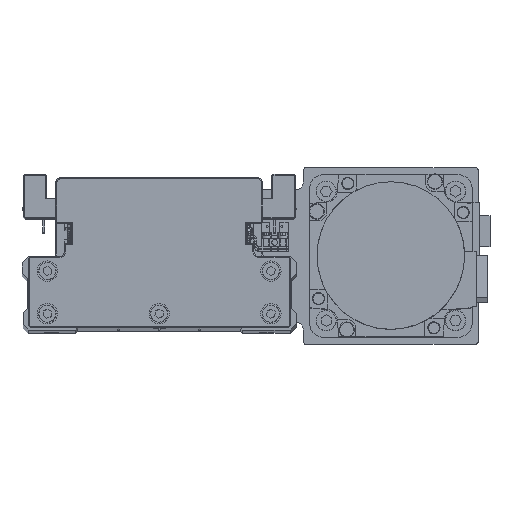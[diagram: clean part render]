
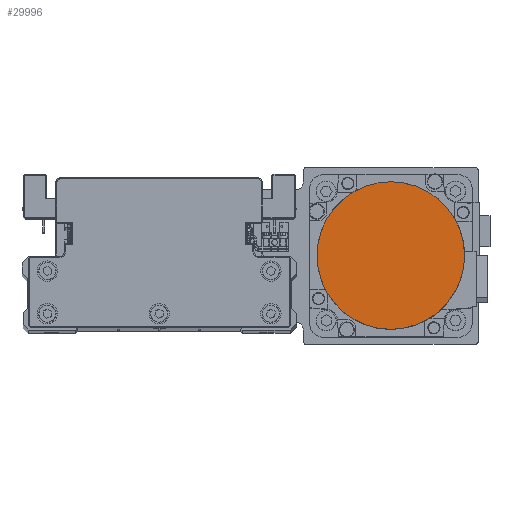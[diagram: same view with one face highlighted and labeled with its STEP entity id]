
A CAD part, top view. The second image highlights one B-rep face of the part: STEP entity #29996.
In plain terms, the highlighted planar face has unit normal (0, 0, 1) as drawn and (0, 0, -1) by its records, which use the part's own axes.
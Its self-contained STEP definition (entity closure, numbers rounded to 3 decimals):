
#2161 = CIRCLE ( 'NONE', #24792, 36.3 ) ;
#6192 = EDGE_CURVE ( 'NONE', #24399, #9738, #9843, .T. ) ;
#7232 = EDGE_CURVE ( 'NONE', #9738, #24399, #2161, .T. ) ;
#7292 = DIRECTION ( 'NONE',  ( 0., 1., 0. ) ) ;
#7983 = DIRECTION ( 'NONE',  ( 0., -1., 0. ) ) ;
#9738 = VERTEX_POINT ( 'NONE', #19290 ) ;
#9843 = CIRCLE ( 'NONE', #32474, 36.3 ) ;
#10886 = DIRECTION ( 'NONE',  ( 0., 0., 1. ) ) ;
#11982 = AXIS2_PLACEMENT_3D ( 'NONE', #38621, #10886, #23243 ) ;
#13934 = FACE_OUTER_BOUND ( 'NONE', #39744, .T. ) ;
#18184 = ORIENTED_EDGE ( 'NONE', *, *, #7232, .F. ) ;
#19290 = CARTESIAN_POINT ( 'NONE',  ( 0., 36.3, -122.2 ) ) ;
#22691 = CARTESIAN_POINT ( 'NONE',  ( 0., 0., -122.2 ) ) ;
#23243 = DIRECTION ( 'NONE',  ( 1., 0., 0. ) ) ;
#23382 = CARTESIAN_POINT ( 'NONE',  ( 0., 0., -122.2 ) ) ;
#24399 = VERTEX_POINT ( 'NONE', #30617 ) ;
#24792 = AXIS2_PLACEMENT_3D ( 'NONE', #22691, #35033, #7292 ) ;
#26291 = PLANE ( 'NONE',  #11982 ) ;
#29996 = ADVANCED_FACE ( 'NONE', ( #13934 ), #26291, .F. ) ;
#30617 = CARTESIAN_POINT ( 'NONE',  ( 0., -36.3, -122.2 ) ) ;
#30903 = ORIENTED_EDGE ( 'NONE', *, *, #6192, .F. ) ;
#32474 = AXIS2_PLACEMENT_3D ( 'NONE', #23382, #35722, #7983 ) ;
#35033 = DIRECTION ( 'NONE',  ( 0., 0., 1. ) ) ;
#35722 = DIRECTION ( 'NONE',  ( 0., 0., 1. ) ) ;
#38621 = CARTESIAN_POINT ( 'NONE',  ( 0., 0., -122.2 ) ) ;
#39744 = EDGE_LOOP ( 'NONE', ( #18184, #30903 ) ) ;
